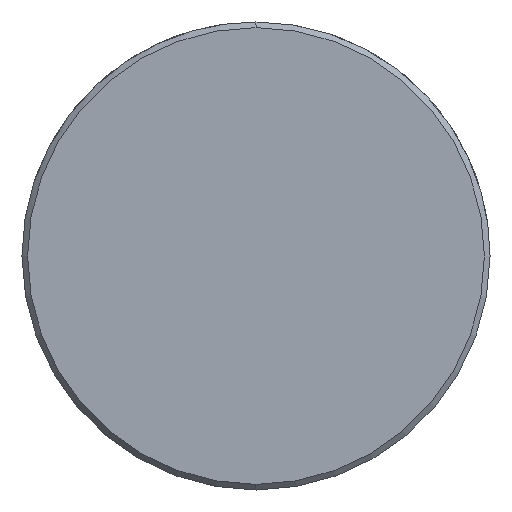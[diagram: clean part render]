
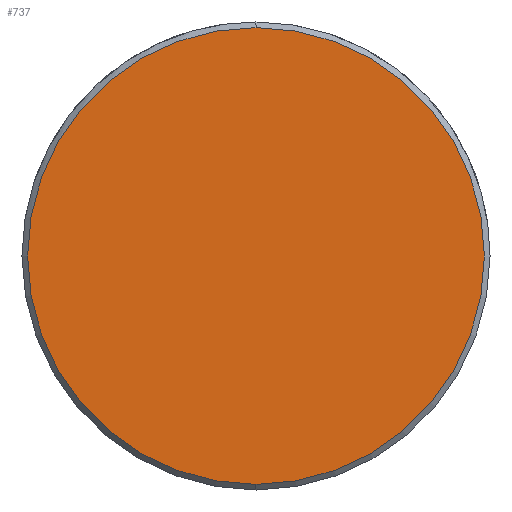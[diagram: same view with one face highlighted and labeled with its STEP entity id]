
A CAD part, left-side view. The second image highlights one B-rep face of the part: STEP entity #737.
In plain terms, the highlighted planar face has unit normal (-1, 0, 0).
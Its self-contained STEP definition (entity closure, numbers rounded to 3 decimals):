
#669=CARTESIAN_POINT('Vertex',(0.,0.,-12.2)) ;
#672=CARTESIAN_POINT('Axis2P3D Location',(0.,0.,0.)) ;
#676=CARTESIAN_POINT('Vertex',(0.,12.2,0.)) ;
#679=CARTESIAN_POINT('Axis2P3D Location',(0.,0.,0.)) ;
#683=CARTESIAN_POINT('Vertex',(0.,0.,12.2)) ;
#705=CARTESIAN_POINT('Axis2P3D Location',(0.,0.,0.)) ;
#709=CARTESIAN_POINT('Vertex',(0.,-12.2,0.)) ;
#712=CARTESIAN_POINT('Axis2P3D Location',(0.,0.,0.)) ;
#726=CARTESIAN_POINT('Axis2P3D Location',(0.,0.,0.)) ;
#673=DIRECTION('Axis2P3D Direction',(1.,0.,-0.)) ;
#680=DIRECTION('Axis2P3D Direction',(1.,0.,-0.)) ;
#706=DIRECTION('Axis2P3D Direction',(1.,0.,-0.)) ;
#713=DIRECTION('Axis2P3D Direction',(1.,0.,-0.)) ;
#727=DIRECTION('Axis2P3D Direction',(1.,0.,-0.)) ;
#728=DIRECTION('Axis2P3D XDirection',(-0.,0.,-1.)) ;
#674=AXIS2_PLACEMENT_3D('Circle Axis2P3D',#672,#673,$) ;
#681=AXIS2_PLACEMENT_3D('Circle Axis2P3D',#679,#680,$) ;
#707=AXIS2_PLACEMENT_3D('Circle Axis2P3D',#705,#706,$) ;
#714=AXIS2_PLACEMENT_3D('Circle Axis2P3D',#712,#713,$) ;
#729=AXIS2_PLACEMENT_3D('Plane Axis2P3D',#726,#727,#728) ;
#732=ORIENTED_EDGE('',*,*,#678,.F.) ;
#733=ORIENTED_EDGE('',*,*,#716,.F.) ;
#734=ORIENTED_EDGE('',*,*,#711,.F.) ;
#735=ORIENTED_EDGE('',*,*,#685,.F.) ;
#737=ADVANCED_FACE('549-22X120',(#736),#730,.F.) ;
#675=CIRCLE('generated circle',#674,12.2) ;
#682=CIRCLE('generated circle',#681,12.2) ;
#708=CIRCLE('generated circle',#707,12.2) ;
#715=CIRCLE('generated circle',#714,12.2) ;
#678=EDGE_CURVE('',#670,#677,#675,.T.) ;
#685=EDGE_CURVE('',#677,#684,#682,.T.) ;
#711=EDGE_CURVE('',#684,#710,#708,.T.) ;
#716=EDGE_CURVE('',#710,#670,#715,.T.) ;
#731=EDGE_LOOP('',(#732,#733,#734,#735)) ;
#736=FACE_OUTER_BOUND('',#731,.T.) ;
#730=PLANE('Plane',#729) ;
#670=VERTEX_POINT('',#669) ;
#677=VERTEX_POINT('',#676) ;
#684=VERTEX_POINT('',#683) ;
#710=VERTEX_POINT('',#709) ;
